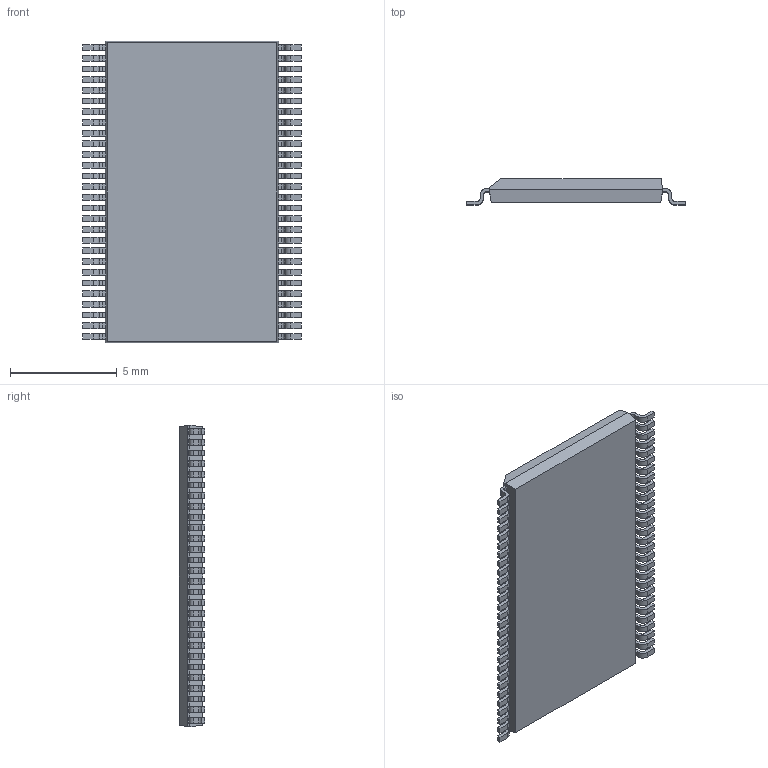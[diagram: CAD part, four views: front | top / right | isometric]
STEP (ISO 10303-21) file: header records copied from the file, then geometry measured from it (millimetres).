
FILE_DESCRIPTION (( 'STEP AP214' ), '1' );
FILE_NAME ('TSSOP50P1000X120-56_MO-153.HD.STEP', '2014-10-29T08:29:33', ( 'Tester2' ), ( '' ), 'SwSTEP 2.0', 'SolidWorks 2012', '' );
FILE_SCHEMA (( 'AUTOMOTIVE_DESIGN' ));
Length unit declared in the file: millimetre
Products named in the file (1): TSSOP50P1000X120-56_MO-153.HD
Bounding box: 10.2 x 1.2 x 14.1 mm (x, y, z)
Volume: 125.7 mm3; surface area: 336.6 mm2
Topology: 1 solids, 1 shells, 742 faces, 2213 edges, 1474 vertices
Faces by surface type: plane 516, cylinder 226
Entity records: 32912 total; most frequent: CARTESIAN_POINT 4430, ORIENTED_EDGE 4426, DIRECTION 4151, EDGE_CURVE 2213, LINE 1761, VECTOR 1761, VERTEX_POINT 1474, AXIS2_PLACEMENT_3D 1195
